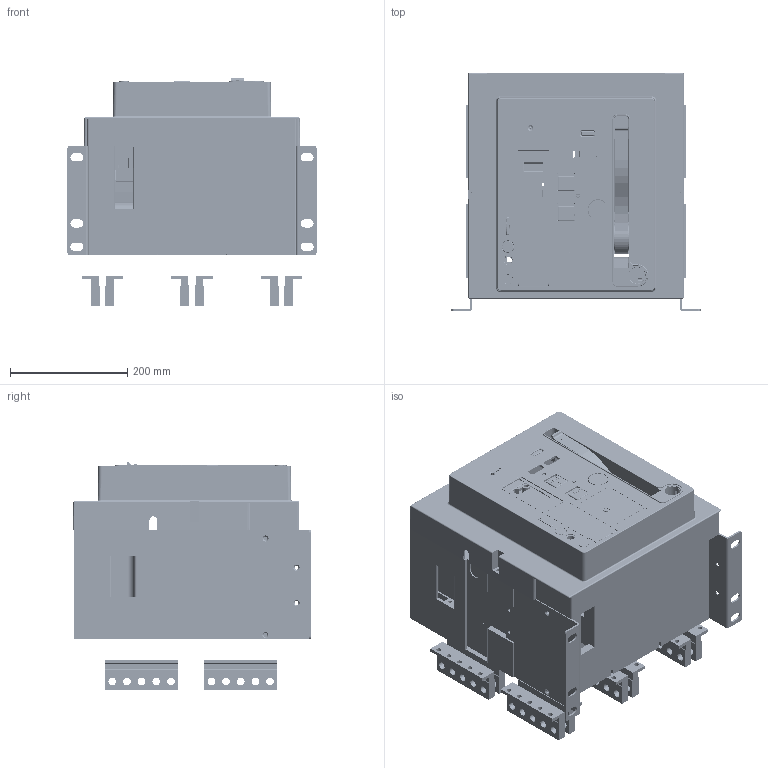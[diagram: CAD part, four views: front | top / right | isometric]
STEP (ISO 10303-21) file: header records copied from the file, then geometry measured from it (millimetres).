
FILE_DESCRIPTION((''),'2;1');
FILE_NAME('HG_16_B403V_FIX_ASM_ASM_ASM','2019-03-29T',('HHI'),(''),'PRO/ENGINEER BY PARAMETRIC TECHNOLOGY CORPORATION, 2012453','PRO/ENGINEER BY PARAMETRIC TECHNOLOGY CORPORATION, 2012453','');
FILE_SCHEMA(('CONFIG_CONTROL_DESIGN'));
Products named in the file (25): PRT0514; PRT0515; PRT0516; PRT0517; PRT0518; PRT0519; ASM0063_ASM_ASM; PRT0520; PRT0521; PRT0522; ASM0064_ASM_ASM; PRT0523; PRT0524; ASM0062_ASM_ASM; PRT0525; PRT0526; PRT0527; ASM0061_ASM_ASM; PRT0528; B403V_FIX_ASM_4_ASM_ASM; PRT0529; PRT0530; PRT0531; ASM0084_ASM; HG_16_B403V_FIX_ASM_ASM_ASM
Assembly tree (37 placements, depth 7):
  HG_16_B403V_FIX_ASM_ASM_ASM
    ASM0084_ASM
      B403V_FIX_ASM_4_ASM_ASM
        ASM0061_ASM_ASM
          PRT0514
          PRT0515
          ASM0062_ASM_ASM
            ASM0063_ASM_ASM
              PRT0516
              PRT0517
              PRT0518
              PRT0519
            ASM0064_ASM_ASM
              PRT0520
              PRT0521
              PRT0522
            PRT0523
            PRT0524
          PRT0525  x3
          PRT0526
          PRT0527
        PRT0528  x12
      PRT0529
      PRT0530
      PRT0531
Bounding box: 424.4 x 405.08 x 389.63 mm (x, y, z)
Volume: 8055608.6 mm3; surface area: 2892918.8 mm2
Topology: 31 solids, 37 shells, 7170 faces, 20057 edges, 13068 vertices
Faces by surface type: plane 4339, cylinder 2177, torus 248, extrusion 141, cone 108, sphere 96, bspline 61
Entity records: 221853 total; most frequent: CARTESIAN_POINT 45323, ORIENTED_EDGE 37504, DIRECTION 35849, EDGE_CURVE 18760, VECTOR 13559, LINE 13418, VERTEX_POINT 12266, AXIS2_PLACEMENT_3D 11145
